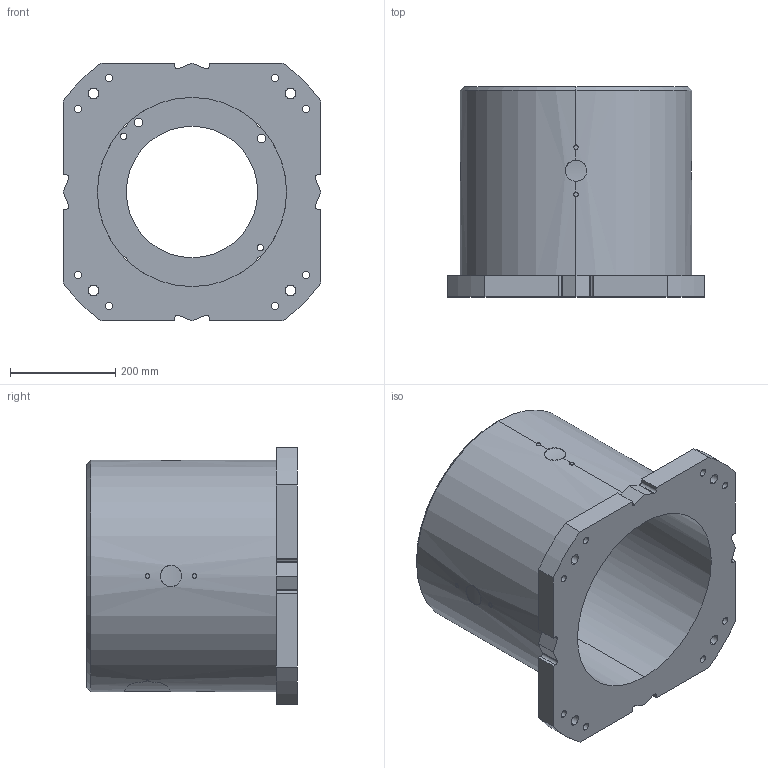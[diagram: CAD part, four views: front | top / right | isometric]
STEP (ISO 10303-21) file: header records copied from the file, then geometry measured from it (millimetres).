
FILE_DESCRIPTION (( 'STEP AP214' ), '1' );
FILE_NAME ('H-400.STEP', '2025-12-05T13:36:28', ( '' ), ( '' ), 'SwSTEP 2.0', 'SolidWorks 2022', '' );
FILE_SCHEMA (( 'AUTOMOTIVE_DESIGN' ));
Length unit declared in the file: millimetre
Products named in the file (1): H-400
Bounding box: 490 x 400 x 490 mm (x, y, z)
Volume: 24946465.5 mm3; surface area: 1399006.2 mm2
Topology: 1 solids, 1 shells, 155 faces, 419 edges, 272 vertices
Faces by surface type: cylinder 105, plane 32, bspline 16, cone 2
Entity records: 9219 total; most frequent: CARTESIAN_POINT 4788, ORIENTED_EDGE 838, DIRECTION 751, EDGE_CURVE 419, AXIS2_PLACEMENT_3D 290, VERTEX_POINT 272, EDGE_LOOP 203, VECTOR 171
